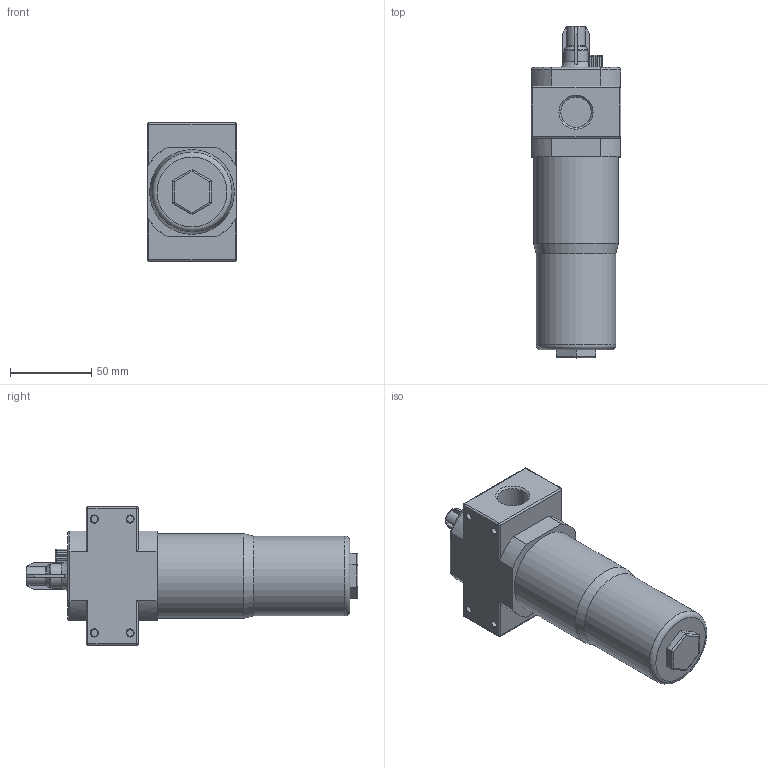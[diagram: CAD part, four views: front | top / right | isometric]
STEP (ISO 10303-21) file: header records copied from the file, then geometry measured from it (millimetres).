
FILE_DESCRIPTION(/* description */ ('STEP AP214'),/* implementation_level */ '2;1');
FILE_NAME(/* name */ '90-OC-12.stp',/* time_stamp */ '2026-01-20T15:17:04+01:00',/* author */ ('Tschernatsch'),/* organization */ ('CADENAS'),/* preprocessor_version */ 'ST-DEVELOPER v20',/* originating_system */ 'Autodesk Inventor 2024',/* authorisation */ ' ');
FILE_SCHEMA (('AUTOMOTIVE_DESIGN { 1 0 10303 214 3 1 1 }'));
Length unit declared in the file: millimetre
Products named in the file (1): LOE-G1/2-MIDI_____
Bounding box: 55 x 204 x 85 mm (x, y, z)
Volume: 447980.2 mm3; surface area: 44804.3 mm2
Topology: 1 solids, 1 shells, 182 faces, 444 edges, 266 vertices
Faces by surface type: cylinder 74, plane 66, torus 22, cone 12, sphere 8
Full cylindrical faces by diameter (mm): 4.134 x4, 18.631 x2, 49 x1, 52 x1
Entity records: 5646 total; most frequent: CARTESIAN_POINT 1395, DIRECTION 892, ORIENTED_EDGE 872, EDGE_CURVE 436, AXIS2_PLACEMENT_3D 334, VERTEX_POINT 266, LINE 224, VECTOR 224
